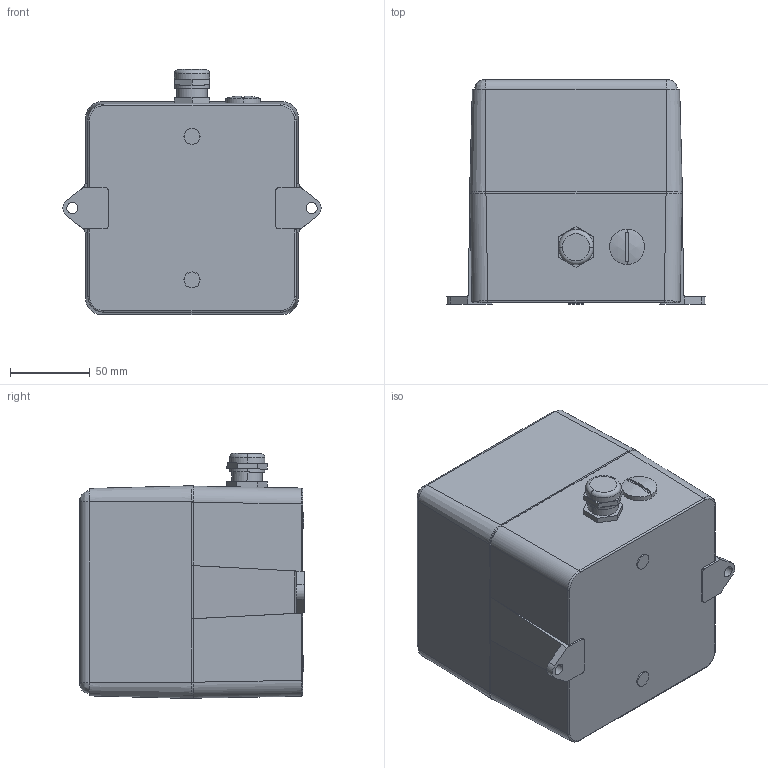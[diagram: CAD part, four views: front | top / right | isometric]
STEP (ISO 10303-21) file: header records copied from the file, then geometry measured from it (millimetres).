
FILE_DESCRIPTION (( 'STEP AP214' ), '1' );
FILE_NAME ('DS5 DS10.STEP', '2009-10-27T13:23:17', ( ' ' ), ( ' ' ), 'SwSTEP 2.0', 'SolidWorks 2009', '' );
FILE_SCHEMA (( 'AUTOMOTIVE_DESIGN' ));
Length unit declared in the file: millimetre
Products named in the file (1): DS5  DS10
Bounding box: 161.89 x 140.8 x 153.78 mm (x, y, z)
Surface area: 139482.8 mm2 (no closed solid volume)
Topology: 0 solids, 11 shells, 208 faces, 644 edges, 446 vertices
Faces by surface type: plane 110, cylinder 38, cone 36, sphere 10, bspline 8, torus 6
Entity records: 10480 total; most frequent: CARTESIAN_POINT 2601, DIRECTION 1178, ORIENTED_EDGE 1092, EDGE_CURVE 644, AXIS2_PLACEMENT_3D 455, VERTEX_POINT 446, VECTOR 268, LINE 268
